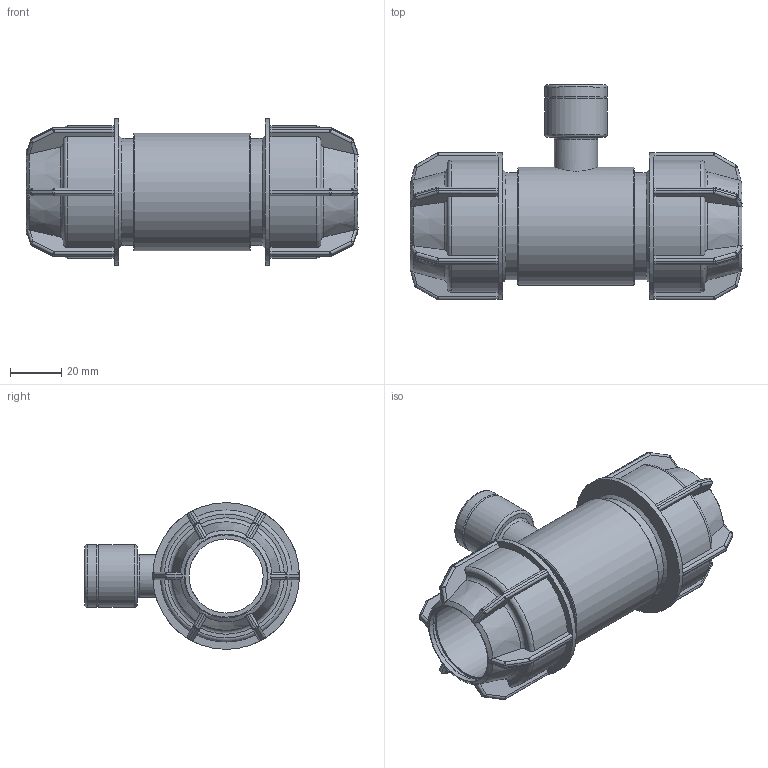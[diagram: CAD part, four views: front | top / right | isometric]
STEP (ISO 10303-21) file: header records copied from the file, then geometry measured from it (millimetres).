
FILE_DESCRIPTION(/* description */ ('PLASSON IRRIFIT TEE FEMALE ADAPTOR 32-3/4"-32'),/* implementation_level */ '2;1');
FILE_NAME(/* name */ 'C:\Dropbox\KIMPROJECTS-Inventor\99-16-3568-Processing\Silver+MF ISRAEL\041407\041407032007.ipt.stp',/* time_stamp */ '2018-04-09T12:59:54+03:00',/* author */ ('KIM'),/* organization */ (''),/* preprocessor_version */ 'ST-DEVELOPER v15.6',/* originating_system */ 'Autodesk Inventor 2015',/* authorisation */ '');
FILE_SCHEMA (('AUTOMOTIVE_DESIGN { 1 0 10303 214 3 1 1 }'));
Length unit declared in the file: millimetre
Products named in the file (1): 041407032007
Bounding box: 129 x 83.5 x 57 mm (x, y, z)
Volume: 129204.2 mm3; surface area: 44166.6 mm2
Topology: 1 solids, 1 shells, 422 faces, 1002 edges, 575 vertices
Faces by surface type: plane 201, cylinder 123, sphere 48, torus 32, cone 18
Full cylindrical faces by diameter (mm): 13.042 x1, 16.768 x1, 18.631 x1, 24.22 x2, 28.8 x1, 32 x4, 41.6 x2, 45.76 x1, 57 x2
Entity records: 12132 total; most frequent: CARTESIAN_POINT 3169, DIRECTION 1888, ORIENTED_EDGE 1830, EDGE_CURVE 915, AXIS2_PLACEMENT_3D 764, VERTEX_POINT 543, EDGE_LOOP 458, FACE_OUTER_BOUND 414
